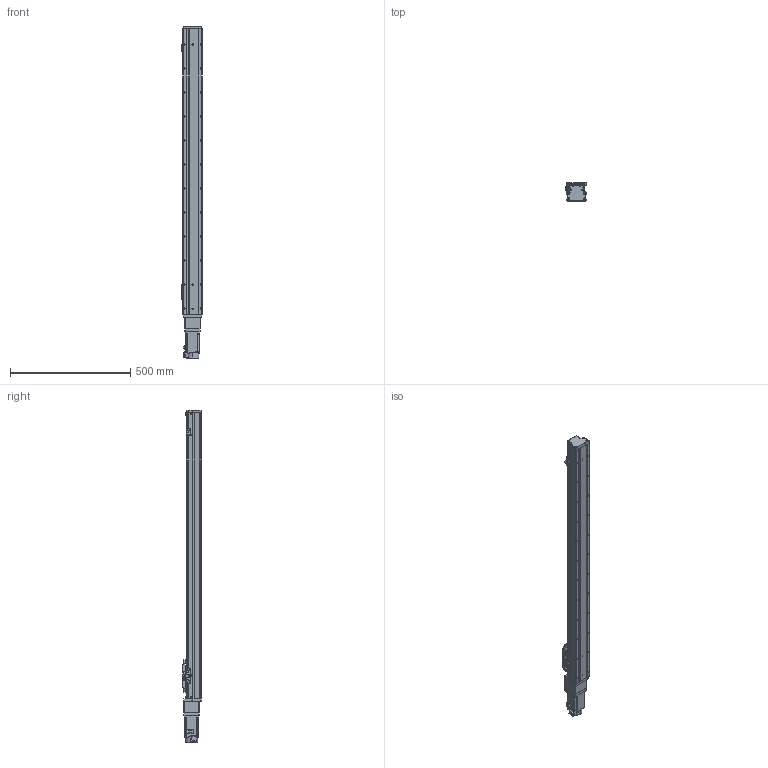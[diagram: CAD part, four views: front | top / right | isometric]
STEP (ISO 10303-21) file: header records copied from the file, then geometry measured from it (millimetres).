
FILE_DESCRIPTION (( 'STEP AP203' ), '1' );
FILE_NAME ('GTH8-1000-BC-M20-C4.step', '2022-09-23T00:53:29', ( '微软用户' ), ( '微软中国' ), 'SwSTEP 2.0', 'SolidWorks 2020', '' );
FILE_SCHEMA (( 'CONFIG_CONTROL_DESIGN' ));
Length unit declared in the file: millimetre
Products named in the file (19): hg-kn43j_-s100_; GTH80-001_1000; GTH50-023; GTH8-1000-BC-M20-C4; GTH80-003; GBT96.1-2002 3×0.8; GTH80-022; GTH80-004; BTH-M3X5X6; GBT 70.1-M3℅6; GTH80-006; CTHA86-006-1_CTHA86-006-2; GBT 70.1-M4×16; GTH80-013; CTHA86-013; GTH80-028; GBT 70.3-M3℅6; CTHA86-027; GTH50-024
Assembly tree (60 placements, depth 2):
  GTH8-1000-BC-M20-C4
    GTH80-001_1000
    GTH80-003
    GTH80-004
    GTH80-006
    GTH80-013
    GBT 70.3-M3℅6  x6
    GTH80-022
    GBT 70.1-M3℅6  x14
    GBT 70.1-M4×16  x8
    GTH80-028  x2
    GTH50-024  x3
    GTH50-023  x3
    GBT96.1-2002 3×0.8  x6
    BTH-M3X5X6  x8
    CTHA86-006-1_CTHA86-006-2
    CTHA86-013
    CTHA86-027
    hg-kn43j_-s100_
Bounding box: 86.9 x 78 x 1382.7 mm (x, y, z)
Volume: 5959753.4 mm3; surface area: 581801 mm2
Topology: 62 solids, 62 shells, 2247 faces, 5176 edges, 3155 vertices
Faces by surface type: plane 1173, cylinder 617, cone 285, torus 162, sphere 8, bspline 2
Entity records: 39408 total; most frequent: CARTESIAN_POINT 6503, DIRECTION 6478, ORIENTED_EDGE 5942, EDGE_CURVE 2971, AXIS2_PLACEMENT_3D 2272, VECTOR 1934, LINE 1934, VERTEX_POINT 1868
